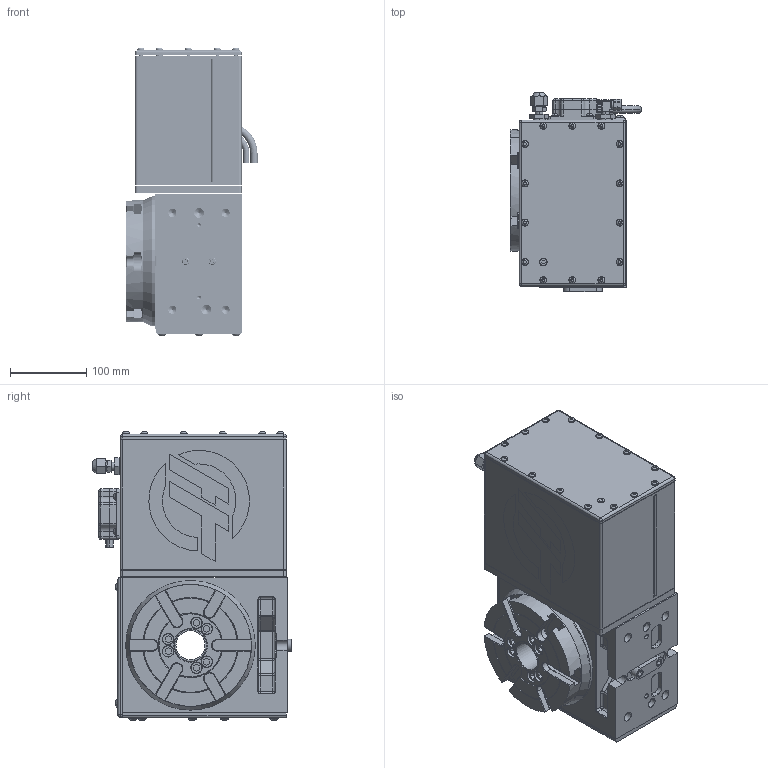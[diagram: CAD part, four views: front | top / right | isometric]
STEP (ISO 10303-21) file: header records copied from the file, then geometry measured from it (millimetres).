
FILE_DESCRIPTION (( 'STEP AP214' ), '1' );
FILE_NAME ('FOR MLD 10000117047 FOR DEFEATURING V2-10-22-2020.STEP', '2020-10-27T16:00:29', ( '' ), ( '' ), 'SwSTEP 2.0', 'SolidWorks 2020', '' );
FILE_SCHEMA (( 'AUTOMOTIVE_DESIGN' ));
Length unit declared in the file: inch
Products named in the file (36): 10000096150-10-22-2020; 58-0306-10-22-2020; 10000122518-10-22-2020; 20-4153-10-22-2020; 10000118450-10-22-2020; 10000120871-10-22-2020_HRT160; 40-1630-10-22-2020; 30-1078-10-22-2020; 40-16372-10-22-2020; 40-1697-10-22-2020; 10000116833-10-22-2020_defeature; 58-16706-10-22-2020; 40-1980-10-22-2020; 10000098900-10-22-2020; FOR MLD 10000117047 FOR DEFEATURING V2-10-22-2020; 58-16752-10-22-2020; 10000116857-10-22-2020; 10000116928-10-22-2020; 35-4058-10-22-2020; 10000062466-10-22-2020; 10000116792-10-22-2020; 58-1627-10-22-2020; 10000097807-10-22-2020_50635K379; 10000048171-10-22-2020; 40-16385-10-22-2020; 10000117960-10-22-2020; 10000117391-10-22-2020; 20-4151-10-22-2020; 10000117266-10-22-2020; 10000122046-10-22-2020; 40-1609-10-22-2020_40-0158; 40-2000-10-22-2020_DEFAULT; 10000122515-10-22-2020_HRT160; 10000116865-10-22-2020; 10000117964-10-22-2020; 10000117961-10-22-2020
Assembly tree (96 placements, depth 5):
  10000122518-10-22-2020
  FOR MLD 10000117047 FOR DEFEATURING V2-10-22-2020
    10000116792-10-22-2020
      10000116833-10-22-2020_defeature
      30-1078-10-22-2020
        35-4058-10-22-2020
          10000048171-10-22-2020
      20-4151-10-22-2020
      20-4153-10-22-2020
      10000116928-10-22-2020
      10000117391-10-22-2020
      10000117266-10-22-2020
      10000116865-10-22-2020
      40-16372-10-22-2020  x6
      40-1980-10-22-2020  x12
      40-1697-10-22-2020  x8
      40-2000-10-22-2020_DEFAULT  x3
      40-16385-10-22-2020  x4
      40-1609-10-22-2020_40-0158  x18
      10000096150-10-22-2020  x18
      58-0306-10-22-2020
      58-16752-10-22-2020
      10000098900-10-22-2020  x2
      10000097807-10-22-2020_50635K379
      58-1627-10-22-2020
      58-16706-10-22-2020  x2
    10000062466-10-22-2020
      10000116857-10-22-2020
    10000120871-10-22-2020_HRT160
      10000118450-10-22-2020
      40-1630-10-22-2020  x2
    10000122515-10-22-2020_HRT160
      10000122046-10-22-2020
  10000117960-10-22-2020
  10000117964-10-22-2020
  10000117961-10-22-2020
Bounding box: 172.21 x 261.4 x 379.14 mm (x, y, z)
Volume: 11015115.8 mm3; surface area: 919168.8 mm2
Topology: 97 solids, 97 shells, 3586 faces, 8570 edges, 5357 vertices
Faces by surface type: cylinder 1407, plane 1241, cone 506, sphere 280, torus 116, bspline 36
Entity records: 90988 total; most frequent: CARTESIAN_POINT 20722, DIRECTION 12715, ORIENTED_EDGE 11912, EDGE_CURVE 5956, AXIS2_PLACEMENT_3D 5088, VERTEX_POINT 3721, EDGE_LOOP 2695, CIRCLE 2571
